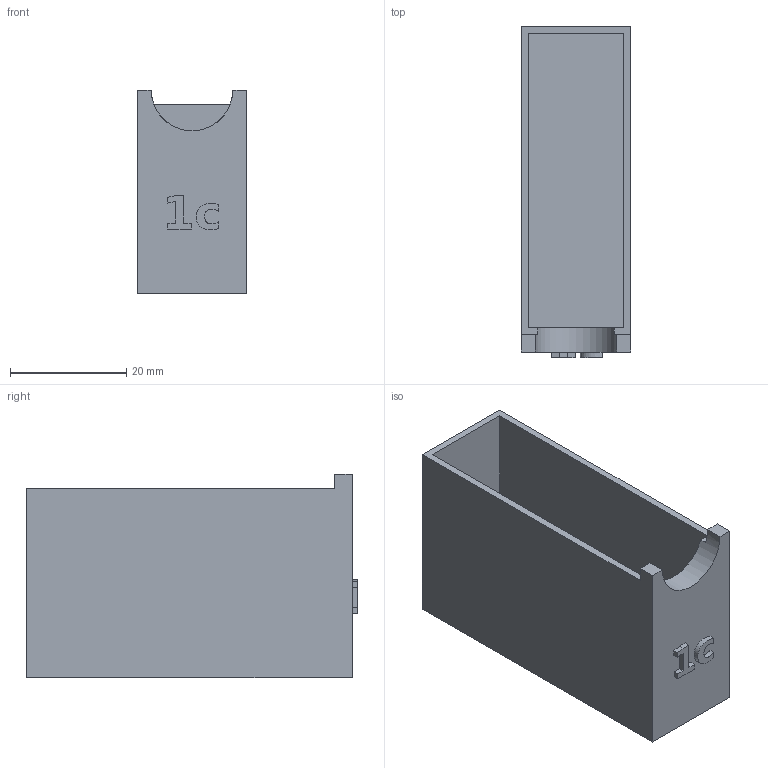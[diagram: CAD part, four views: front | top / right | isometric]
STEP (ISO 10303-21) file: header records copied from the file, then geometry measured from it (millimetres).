
FILE_DESCRIPTION(('Open CASCADE Model'),'2;1');
FILE_NAME('Open CASCADE Shape Model','2026-10-20T15:47:44',('Author'),( 'Open CASCADE'),'Open CASCADE STEP processor 8.0','build123d', 'Unknown');
FILE_SCHEMA(('AUTOMOTIVE_DESIGN { 1 0 10303 214 1 1 1 1 }'));
Length unit declared in the file: millimetre
Products named in the file (2): =>[0:1:1:2]; COMPOUND
Assembly tree (1 placements, depth 2):
  =>[0:1:1:2]
    COMPOUND
Bounding box: 18.77 x 56.84 x 35 mm (x, y, z)
Volume: 8107.6 mm3; surface area: 11165.3 mm2
Topology: 1 solids, 1 shells, 33 faces, 87 edges, 58 vertices
Faces by surface type: plane 30, extrusion 2, cylinder 1
Entity records: 2234 total; most frequent: CARTESIAN_POINT 484, DIRECTION 305, VECTOR 231, LINE 229, ORIENTED_EDGE 174, PCURVE 174, DEFINITIONAL_REPRESENTATION 174, EDGE_CURVE 87
